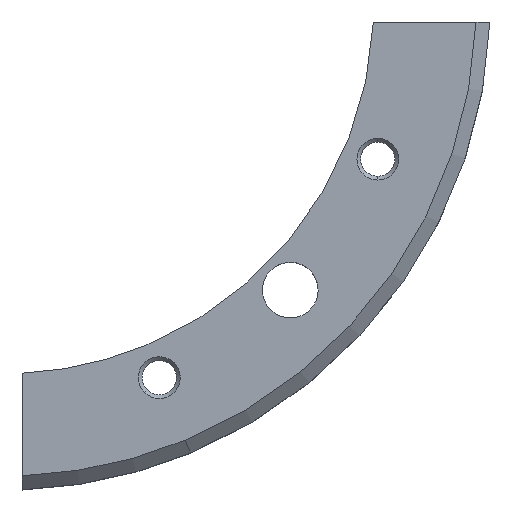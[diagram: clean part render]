
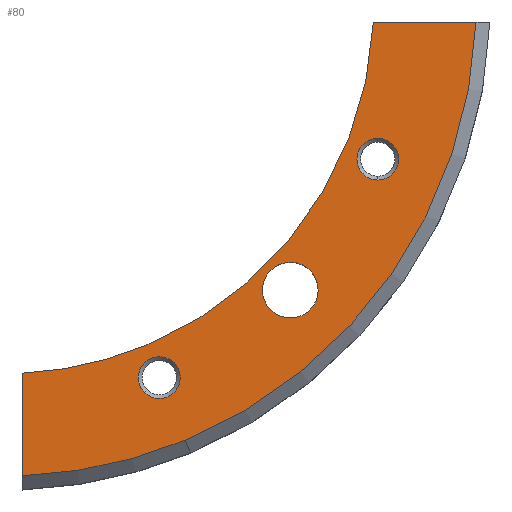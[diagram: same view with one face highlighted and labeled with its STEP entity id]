
A CAD part, top view. The second image highlights one B-rep face of the part: STEP entity #80.
In plain terms, the highlighted planar face has unit normal (0, 0, 1).
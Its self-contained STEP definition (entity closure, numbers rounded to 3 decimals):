
#37=FACE_BOUND('',#152,.F.);
#38=FACE_BOUND('',#153,.F.);
#39=FACE_BOUND('',#154,.F.);
#45=PLANE('',#687);
#80=ADVANCED_FACE('',(#37,#38,#39,#115),#45,.T.);
#115=FACE_OUTER_BOUND('',#155,.F.);
#152=EDGE_LOOP('',(#249,#250));
#153=EDGE_LOOP('',(#251,#252));
#154=EDGE_LOOP('',(#253,#254));
#155=EDGE_LOOP('',(#255,#256,#257,#258,#259,#260));
#249=ORIENTED_EDGE('',*,*,#500,.T.);
#250=ORIENTED_EDGE('',*,*,#501,.T.);
#251=ORIENTED_EDGE('',*,*,#507,.T.);
#252=ORIENTED_EDGE('',*,*,#506,.T.);
#253=ORIENTED_EDGE('',*,*,#503,.T.);
#254=ORIENTED_EDGE('',*,*,#502,.T.);
#255=ORIENTED_EDGE('',*,*,#504,.T.);
#256=ORIENTED_EDGE('',*,*,#472,.F.);
#257=ORIENTED_EDGE('',*,*,#474,.F.);
#258=ORIENTED_EDGE('',*,*,#505,.T.);
#259=ORIENTED_EDGE('',*,*,#473,.T.);
#260=ORIENTED_EDGE('',*,*,#471,.T.);
#403=LINE('',#1089,#436);
#404=LINE('',#1090,#437);
#436=VECTOR('',#799,7.368);
#437=VECTOR('',#800,7.368);
#471=EDGE_CURVE('',#608,#611,#548,.T.);
#472=EDGE_CURVE('',#607,#610,#549,.T.);
#473=EDGE_CURVE('',#606,#608,#550,.T.);
#474=EDGE_CURVE('',#605,#607,#551,.T.);
#500=EDGE_CURVE('',#593,#592,#566,.T.);
#501=EDGE_CURVE('',#592,#593,#567,.T.);
#502=EDGE_CURVE('',#591,#590,#568,.T.);
#503=EDGE_CURVE('',#590,#591,#569,.T.);
#504=EDGE_CURVE('',#611,#610,#403,.T.);
#505=EDGE_CURVE('',#605,#606,#404,.T.);
#506=EDGE_CURVE('',#589,#588,#570,.T.);
#507=EDGE_CURVE('',#588,#589,#571,.T.);
#548=CIRCLE('',#650,26.5);
#549=CIRCLE('',#651,33.862);
#550=CIRCLE('',#652,26.5);
#551=CIRCLE('',#653,33.862);
#566=CIRCLE('',#668,1.5);
#567=CIRCLE('',#669,1.5);
#568=CIRCLE('',#670,2.);
#569=CIRCLE('',#671,2.);
#570=CIRCLE('',#672,1.5);
#571=CIRCLE('',#673,1.5);
#588=VERTEX_POINT('',#932);
#589=VERTEX_POINT('',#933);
#590=VERTEX_POINT('',#934);
#591=VERTEX_POINT('',#935);
#592=VERTEX_POINT('',#936);
#593=VERTEX_POINT('',#937);
#605=VERTEX_POINT('',#949);
#606=VERTEX_POINT('',#950);
#607=VERTEX_POINT('',#951);
#608=VERTEX_POINT('',#952);
#610=VERTEX_POINT('',#954);
#611=VERTEX_POINT('',#955);
#650=AXIS2_PLACEMENT_3D('',#1041,#747,#748);
#651=AXIS2_PLACEMENT_3D('',#1042,#749,#750);
#652=AXIS2_PLACEMENT_3D('',#1043,#751,#752);
#653=AXIS2_PLACEMENT_3D('',#1044,#753,#754);
#668=AXIS2_PLACEMENT_3D('',#1085,#791,#792);
#669=AXIS2_PLACEMENT_3D('',#1086,#793,#794);
#670=AXIS2_PLACEMENT_3D('',#1087,#795,#796);
#671=AXIS2_PLACEMENT_3D('',#1088,#797,#798);
#672=AXIS2_PLACEMENT_3D('',#1091,#801,#802);
#673=AXIS2_PLACEMENT_3D('',#1092,#803,#804);
#687=AXIS2_PLACEMENT_3D('',#1112,#837,#838);
#747=DIRECTION('',(0.,0.,1.));
#748=DIRECTION('',(0.383,-0.924,0.));
#749=DIRECTION('',(0.,0.,1.));
#750=DIRECTION('',(0.383,-0.924,0.));
#751=DIRECTION('',(0.,0.,1.));
#752=DIRECTION('',(0.047,-0.999,0.));
#753=DIRECTION('',(0.,0.,1.));
#754=DIRECTION('',(0.037,-0.999,0.));
#791=DIRECTION('',(0.,0.,1.));
#792=DIRECTION('',(0.,1.,0.));
#793=DIRECTION('',(0.,0.,1.));
#794=DIRECTION('',(0.,-1.,0.));
#795=DIRECTION('',(0.,0.,1.));
#796=DIRECTION('',(-0.383,-0.924,0.));
#797=DIRECTION('',(0.,0.,1.));
#798=DIRECTION('',(0.383,0.924,0.));
#799=DIRECTION('',(1.,0.,0.));
#800=DIRECTION('',(0.,1.,0.));
#801=DIRECTION('',(0.,0.,1.));
#802=DIRECTION('',(-0.707,-0.707,0.));
#803=DIRECTION('',(0.,0.,1.));
#804=DIRECTION('',(0.707,0.707,0.));
#837=DIRECTION('',(0.,0.,1.));
#838=DIRECTION('',(0.,-1.,0.));
#932=CARTESIAN_POINT('',(296.533,393.52,544.874));
#933=CARTESIAN_POINT('',(294.412,391.399,544.874));
#934=CARTESIAN_POINT('',(305.646,400.594,544.874));
#935=CARTESIAN_POINT('',(304.116,396.898,544.874));
#936=CARTESIAN_POINT('',(311.168,406.654,544.874));
#937=CARTESIAN_POINT('',(311.168,409.654,544.874));
#949=CARTESIAN_POINT('',(285.625,385.414,544.874));
#950=CARTESIAN_POINT('',(285.625,392.782,544.874));
#951=CARTESIAN_POINT('',(297.333,387.968,544.874));
#952=CARTESIAN_POINT('',(294.516,394.769,544.874));
#954=CARTESIAN_POINT('',(318.213,418.002,544.874));
#955=CARTESIAN_POINT('',(310.846,418.002,544.874));
#1041=CARTESIAN_POINT('',(284.375,419.252,544.874));
#1042=CARTESIAN_POINT('',(284.375,419.252,544.874));
#1043=CARTESIAN_POINT('',(284.375,419.252,544.874));
#1044=CARTESIAN_POINT('',(284.375,419.252,544.874));
#1085=CARTESIAN_POINT('',(311.168,408.154,544.874));
#1086=CARTESIAN_POINT('',(311.168,408.154,544.874));
#1087=CARTESIAN_POINT('',(304.881,398.746,544.874));
#1088=CARTESIAN_POINT('',(304.881,398.746,544.874));
#1089=CARTESIAN_POINT('',(310.846,418.002,544.874));
#1090=CARTESIAN_POINT('',(285.625,385.414,544.874));
#1091=CARTESIAN_POINT('',(295.473,392.46,544.874));
#1092=CARTESIAN_POINT('',(295.473,392.46,544.874));
#1112=CARTESIAN_POINT('',(285.125,418.502,544.874));
